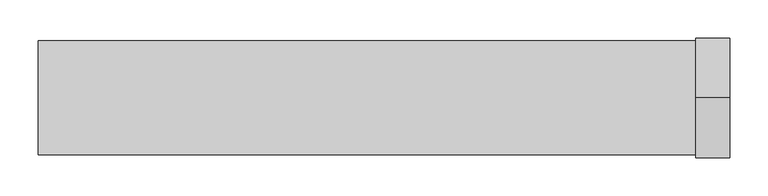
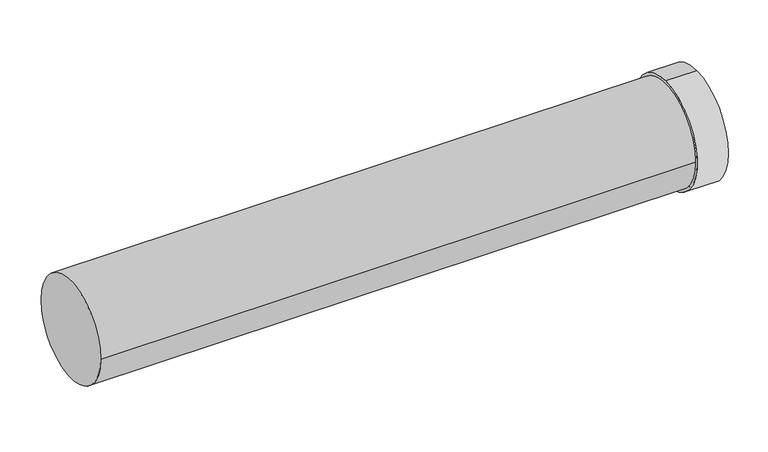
"""IFC4 building model written with IfcOpenShell, lengths in millimetres: duct fitting geometry, NLRS_57_DUF_UN_Twinline Extension_M&G : ø130-150-200."""

from ifc_helpers import new_model, si_unit, point, frame, origin, origin_2d, place, context, project, spatial, polyline, circle_curve, trimmed, segment, composite_curve, outline, extrude, source, transform, mapped, element, save
from ifc_brep_helpers import plane_surface, cylinder_surface, revolved_surface, advanced_brep


def duct_fitting_9444e74b(model_context):
    return source(origin(), model_context, "Body", "SolidModel", [
        advanced_brep(
        [(909.9999881, 0.0, -79.0), (909.9999881, 0.0, 79.0), (909.9999881, 0.0, 75.5), (909.9999881, 0.0, -75.5), (864.9999881, 0.0, -79.0), (864.9999881, 0.0, 79.0), (869.9999881, 0.0, -75.5), (869.9999881, 0.0, 75.5)],
        [
            (0, 1, circle_curve(frame((909.9999881, 0.0, 0.0), z_axis=(1.0, 0.0, 0.0), x_axis=(0.0, 0.0, 1.0)), 79.0)),
            (1, 0, circle_curve(frame((909.9999881, 0.0, 0.0), z_axis=(1.0, 0.0, 0.0), x_axis=(0.0, 0.0, 1.0)), 79.0)),
            (2, 3, circle_curve(frame((909.9999881, 0.0, 0.0), z_axis=(-1.0, 0.0, 0.0), x_axis=(0.0, 0.0, 1.0)), 75.5)),
            (3, 2, circle_curve(frame((909.9999881, 0.0, 0.0), z_axis=(-1.0, 0.0, 0.0), x_axis=(0.0, 0.0, 1.0)), 75.5)),
            (4, 5, circle_curve(frame((864.9999881, 0.0, 0.0), z_axis=(-1.0, 0.0, 0.0), x_axis=(0.0, 0.0, 1.0)), 79.0)),
            (5, 4, circle_curve(frame((864.9999881, 0.0, 0.0), z_axis=(-1.0, 0.0, 0.0), x_axis=(0.0, 0.0, 1.0)), 79.0)),
            (1, 5),
            (4, 0),
            (6, 7, circle_curve(frame((869.9999881, 0.0, 0.0), z_axis=(1.0, 0.0, 0.0), x_axis=(0.0, 0.0, 1.0)), 75.5)),
            (7, 6, circle_curve(frame((869.9999881, 0.0, 0.0), z_axis=(1.0, 0.0, 0.0), x_axis=(0.0, 0.0, 1.0)), 75.5)),
            (7, 2),
            (3, 6),
        ],
        [
            plane_surface(frame((909.9999881, 0.0, 79.0), z_axis=(1.0, 0.0, 0.0), x_axis=(0.0, 1.0, 0.0))),
            plane_surface(frame((864.9999881, 0.0, 79.0), z_axis=(-1.0, 0.0, 0.0), x_axis=(0.0, -1.0, 0.0))),
            cylinder_surface(frame((864.9999881, 0.0, 0.0), z_axis=(1.0, 0.0, 0.0), x_axis=(0.0, 0.0, 1.0)), 79.0),
            plane_surface(frame((869.9999881, 0.0, 75.5), z_axis=(1.0, 0.0, 0.0), x_axis=(0.0, -1.0, 0.0))),
            revolved_surface(polyline([(909.9999881, 0.0, 75.5), (869.9999881, 0.0, 75.5)]), (869.9999881, 0.0, 0.0), (1.0, 0.0, 0.0)),
        ],
        [
            (0, [[1, 2], [3, 4]]),
            (1, [[5, 6]]),
            (2, [[7, -5, 8, -2]]),
            (2, [[-8, -6, -7, -1]]),
            (3, [[9, 10]]),
            (4, [[11, -4, 12, -10]]),
            (4, [[-12, -3, -11, -9]]),
        ],
    ),
        extrude(outline(composite_curve([segment(trimmed(circle_curve(origin_2d(), 75.0), [point((-75.0, 0.0))], [point((75.0, 0.0))], False, "CARTESIAN"), True, "CONTINUOUS"), segment(trimmed(circle_curve(origin_2d(), 75.0), [point((75.0, 0.0))], [point((-75.0, 0.0))], False, "CARTESIAN"), True, "CONTINUOUS")], self_intersect=False)), frame((-2.39e-05, 0.0, 0.0), z_axis=(1.0, 0.0, 0.0), x_axis=(0.0, 1.0, 0.0)), (0.0, 0.0, 1.0), 869.9999881),
    ])


if __name__ == "__main__":
    model = new_model("IFC4")
    model_context = context("Model", 3, world=origin())
    ifc_project = project(units=[si_unit("LENGTHUNIT", "METRE", prefix="MILLI")], contexts=[model_context])
    site = spatial("IfcSite", under=ifc_project)
    building = spatial("IfcBuilding", under=site)
    placement = place(None, origin())
    duct_fitting_shape = duct_fitting_9444e74b(model_context)
    element("IfcDuctFitting", 1, ObjectType="NLRS_57_DUF_UN_Twinline Extension_M&G : ø130-150-200", at=placement, inside=building, context=model_context, shape_type="MappedRepresentation", body=[
        mapped(duct_fitting_shape, transform((0.0, 0.0, 0.0), x_axis=(1.0, 0.0, 0.0), y_axis=(0.0, 1.0, 0.0), z_axis=(0.0, 0.0, 1.0))),
    ])
    save(model, "model.ifc")
